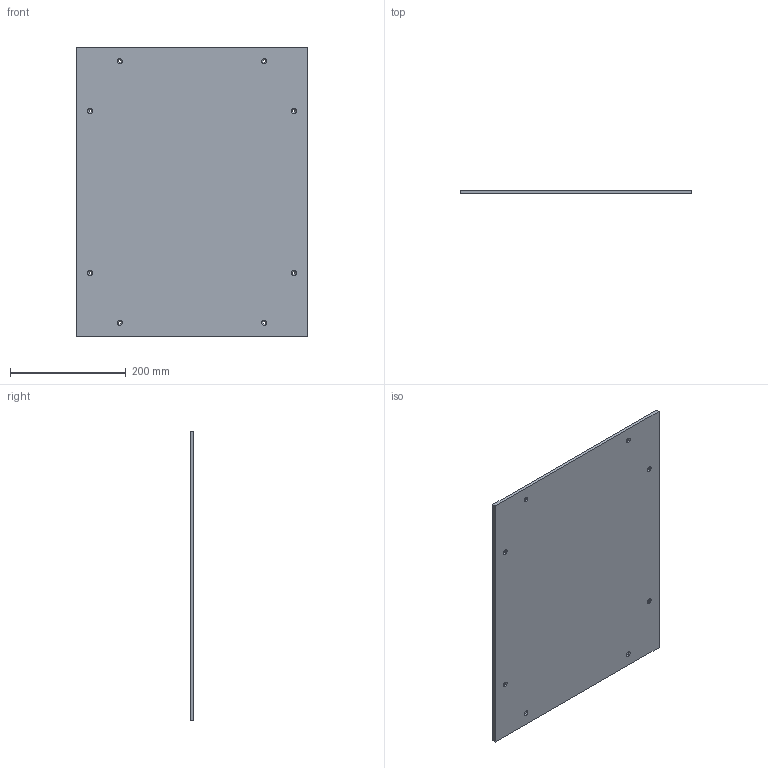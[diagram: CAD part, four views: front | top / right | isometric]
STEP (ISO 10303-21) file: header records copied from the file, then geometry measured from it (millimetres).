
FILE_DESCRIPTION (( 'STEP AP203' ), '1' );
FILE_NAME ('Base_Dessous.STEP', '2026-06-24T07:29:48', ( '' ), ( '' ), 'SwSTEP 2.0', 'SolidWorks 2024', '' );
FILE_SCHEMA (( 'CONFIG_CONTROL_DESIGN' ));
Length unit declared in the file: millimetre
Products named in the file (1): Base_Dessous_Bas
Bounding box: 400 x 6 x 500 mm (x, y, z)
Volume: 1198739.2 mm3; surface area: 411134.2 mm2
Topology: 1 solids, 1 shells, 22 faces, 60 edges, 40 vertices
Faces by surface type: cylinder 8, cone 8, plane 6
Full cylindrical faces by diameter (mm): 5 x8
Entity records: 663 total; most frequent: DIRECTION 106, CARTESIAN_POINT 91, ORIENTED_EDGE 72, EDGE_LOOP 54, AXIS2_PLACEMENT_3D 47, EDGE_CURVE 36, VERTEX_POINT 32, FACE_OUTER_BOUND 30
